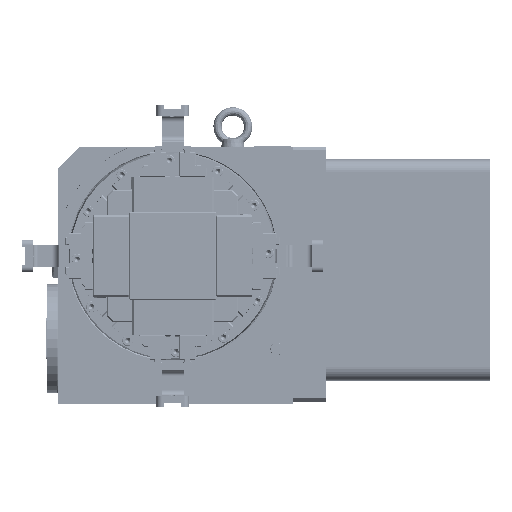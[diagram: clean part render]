
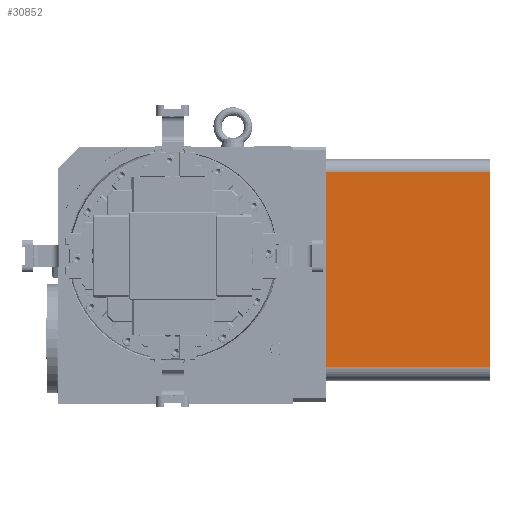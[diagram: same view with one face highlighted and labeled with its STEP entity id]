
A CAD part, front view. The second image highlights one B-rep face of the part: STEP entity #30852.
In plain terms, the highlighted planar face has unit normal (0, -1, 0).
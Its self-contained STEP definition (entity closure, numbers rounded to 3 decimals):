
#11657=FACE_OUTER_BOUND('',#55942,.T.);
#30852=ADVANCED_FACE('',(#11657),#43440,.T.);
#43440=PLANE('',#254079);
#55942=EDGE_LOOP('',(#90630,#90631,#90632,#90633));
#90630=ORIENTED_EDGE('',*,*,#176425,.F.);
#90631=ORIENTED_EDGE('',*,*,#176424,.F.);
#90632=ORIENTED_EDGE('',*,*,#176426,.T.);
#90633=ORIENTED_EDGE('',*,*,#176427,.T.);
#150269=VERTEX_POINT('',#368809);
#150270=VERTEX_POINT('',#368811);
#150271=VERTEX_POINT('',#368815);
#150272=VERTEX_POINT('',#368817);
#176424=EDGE_CURVE('',#150270,#150269,#208841,.T.);
#176425=EDGE_CURVE('',#150269,#150271,#208842,.T.);
#176426=EDGE_CURVE('',#150270,#150272,#208843,.T.);
#176427=EDGE_CURVE('',#150272,#150271,#208844,.T.);
#208841=LINE('',#368812,#230917);
#208842=LINE('',#368814,#230918);
#208843=LINE('',#368816,#230919);
#208844=LINE('',#368818,#230920);
#230917=VECTOR('',#285339,1.);
#230918=VECTOR('',#285342,1.);
#230919=VECTOR('',#285343,1.);
#230920=VECTOR('',#285344,1.);
#254079=AXIS2_PLACEMENT_3D('',#368819,#285345,#285346);
#285339=DIRECTION('',(-1.,0.,0.));
#285342=DIRECTION('',(0.,0.,1.));
#285343=DIRECTION('',(0.,0.,1.));
#285344=DIRECTION('',(-1.,0.,0.));
#285345=DIRECTION('',(0.,-1.,0.));
#285346=DIRECTION('',(0.,0.,-1.));
#368809=CARTESIAN_POINT('',(140.,87.1,-101.5));
#368811=CARTESIAN_POINT('',(290.,87.1,-101.5));
#368812=CARTESIAN_POINT('',(290.,87.1,-101.5));
#368814=CARTESIAN_POINT('',(140.,87.1,-101.5));
#368815=CARTESIAN_POINT('',(140.,87.1,76.5));
#368816=CARTESIAN_POINT('',(290.,87.1,-101.5));
#368817=CARTESIAN_POINT('',(290.,87.1,76.5));
#368818=CARTESIAN_POINT('',(290.,87.1,76.5));
#368819=CARTESIAN_POINT('',(290.,87.1,-101.5));
